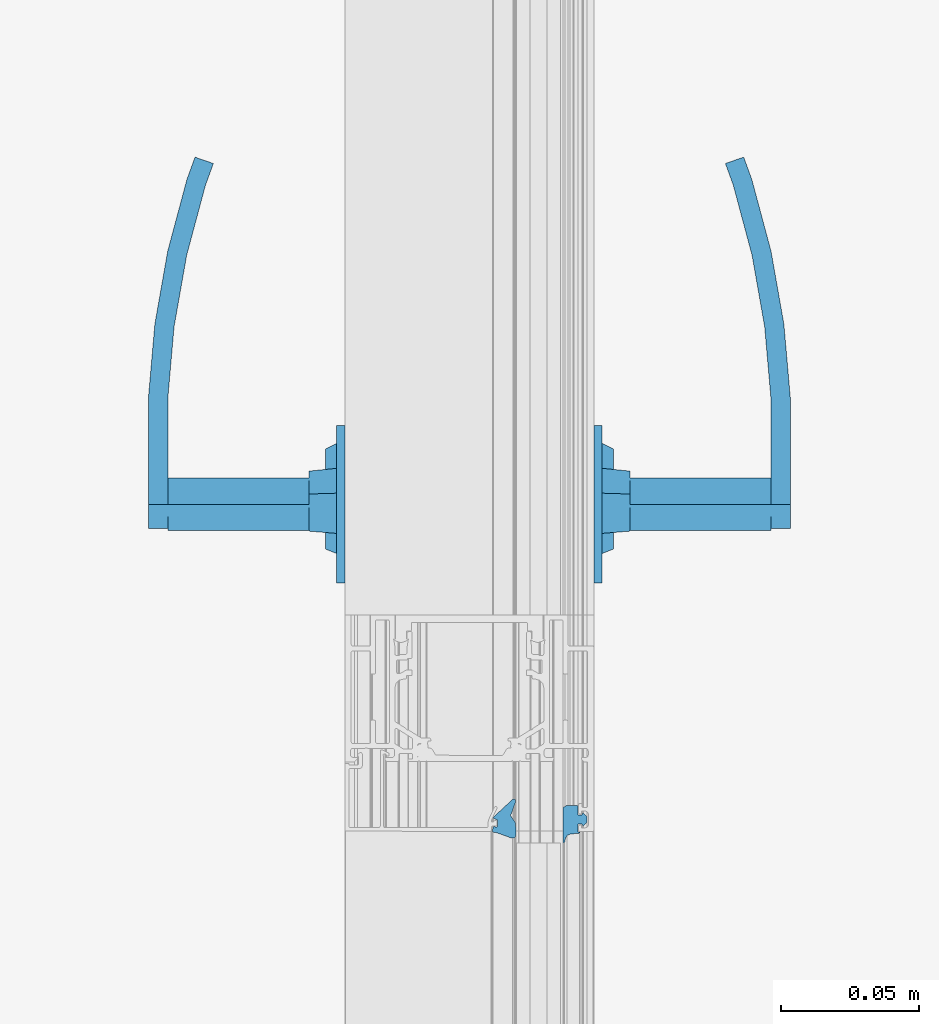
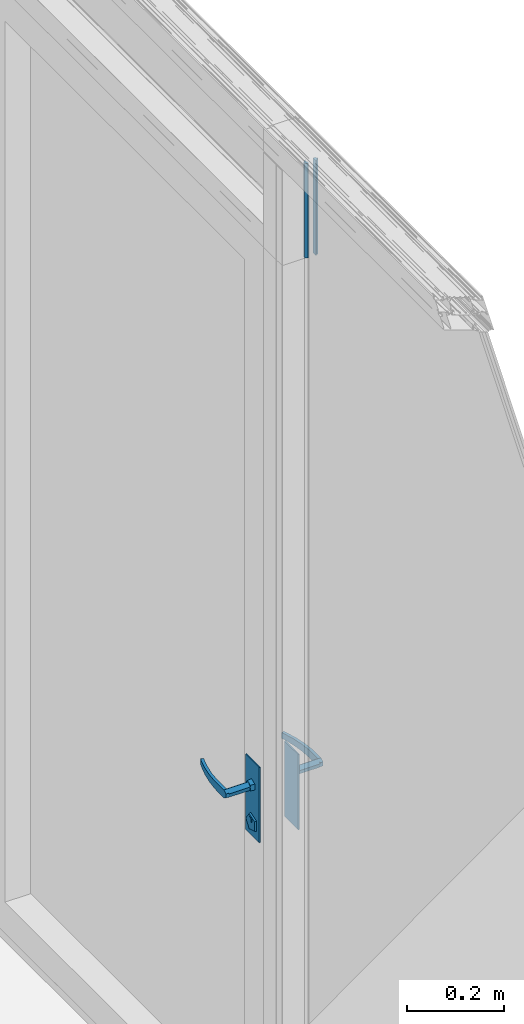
# One storey, part 50 of 65: 2 building element parts, 3 elements without a shape of their own.
"""IFC2X3 building model written with IfcOpenShell, lengths in millimetres."""

from ifc_helpers import new_model, entity, si_unit, converted_unit, derived_unit, money_unit, direction, frame, origin_with_axes, place, context, subcontext, project, spatial, open_shell, faceted_brep, surface_model, material, type_object, element, aggregate, save


model = new_model("IFC2X3")

# Units and contexts
model_context = context("Model", 3, precision=0.01, world=origin_with_axes(), true_north=direction((0.0, 1.0)))
body_context = subcontext(model_context, "Body", "Model", "MODEL_VIEW")
ifc_project = project(units=[si_unit("LENGTHUNIT", "METRE", prefix="MILLI"), si_unit("AREAUNIT", "SQUARE_METRE"), si_unit("VOLUMEUNIT", "CUBIC_METRE"), converted_unit("PLANEANGLEUNIT", "DEGREE", entity("IfcPlaneAngleMeasure", 0.0174532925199), si_unit("PLANEANGLEUNIT", "RADIAN"), dimensions=[0, 0, 0, 0, 0, 0, 0]), si_unit("SOLIDANGLEUNIT", "STERADIAN"), money_unit("EUR"), converted_unit("TIMEUNIT", "Year", entity("IfcTimeMeasure", 31556926.0), si_unit("TIMEUNIT", "SECOND"), dimensions=[0, 0, 1, 0, 0, 0, 0]), si_unit("MASSUNIT", "GRAM", prefix="KILO"), si_unit("THERMODYNAMICTEMPERATUREUNIT", "DEGREE_CELSIUS"), si_unit("LUMINOUSINTENSITYUNIT", "LUMEN"), si_unit("ENERGYUNIT", "JOULE", prefix="MEGA"), derived_unit("THERMALCONDUCTANCEUNIT", [(si_unit("POWERUNIT", "WATT"), 1), (si_unit("LENGTHUNIT", "METRE"), -1), (si_unit("THERMODYNAMICTEMPERATUREUNIT", "KELVIN"), -1)]), derived_unit("SPECIFICHEATCAPACITYUNIT", [(si_unit("ENERGYUNIT", "JOULE"), 1), (si_unit("MASSUNIT", "GRAM", prefix="KILO"), -1), (si_unit("THERMODYNAMICTEMPERATUREUNIT", "KELVIN"), -1)]), derived_unit("MASSDENSITYUNIT", [(si_unit("MASSUNIT", "GRAM", prefix="KILO"), 1), (si_unit("VOLUMEUNIT", "CUBIC_METRE"), -1)])], contexts=[model_context])

# Site, building, storey
site_placement = place(None, origin_with_axes())
site = spatial("IfcSite", under=ifc_project, at=site_placement, Name="Puškini 31, Narva", CompositionType="ELEMENT")
building_placement = place(site_placement, origin_with_axes())
building = spatial("IfcBuilding", under=site, at=building_placement, Name="Narva Riigigümnaasium", CompositionType="ELEMENT")
storey_placement = place(building_placement, frame((0.0, 0.0, -1320.0), z_axis=(0.0, 0.0, 1.0), x_axis=(1.0, 0.0, 0.0)))
storey = spatial("IfcBuildingStorey", under=building, at=storey_placement, Name="1.korrus -1.32", CompositionType="ELEMENT", Elevation=-1320.0)

# Curtain wall, door, building element parts, member
curtain_wall_type = type_object("IfcCurtainWallType", Name="Curtain Wall Type", PredefinedType="NOTDEFINED")
curtain_wall_placement = place(storey_placement, frame((28354.9542923, 194209.397521, 0.0), z_axis=(0.0, 0.0, 1.0), x_axis=(1.0, 0.0, 0.0)))
curtain_wall = element("IfcCurtainWall", 1, at=curtain_wall_placement, inside=storey, type_object=curtain_wall_type, Name="G-SKLF-07")
door_style = type_object("IfcDoorStyle", Name="1132 x 2349 x 20", ConstructionType="NOTDEFINED", OperationType="NOTDEFINED", ParameterTakesPrecedence=False, Sizeable=False)
door_placement = place(curtain_wall_placement, frame((0.0, 0.0, 960.0), z_axis=(0.0, 0.0, 1.0), x_axis=(-4.05197719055e-06, -0.999999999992, 0.0)))
door = element("IfcDoor", 2, at=door_placement, type_object=door_style, Name="G-SKLF-07-U1", ObjectType="DOOR")
ifc_material_1 = material(Name="ET-07_Teras - Roostevaba")
building_element_part_1_placement = place(door_placement, origin_with_axes())
building_element_part_1 = element("IfcBuildingElementPart", 3, at=building_element_part_1_placement, material=ifc_material_1, Name="ET-07_Teras - Roostevaba", context=body_context, shape_type="SurfaceModel", body=[
    faceted_brep([(697.90165242, -45.0, 120.0), (640.90165242, -45.0, 120.0), (640.90165242, -48.0, 120.0), (697.90165242, -48.0, 120.0), (697.90165242, -45.0, -70.0), (640.90165242, -45.0, -70.0), (640.90165242, -48.0, -70.0), (697.90165242, -48.0, -70.0)], [[[0, 1, 2, 3]], [[0, 4, 5, 1]], [[1, 5, 6, 2]], [[3, 2, 6, 7]], [[4, 0, 3, 7]], [[5, 4, 7, 6]]]),
    surface_model("IfcShellBasedSurfaceModel", [(669.40165242, -109.0, 50.0), (678.061906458, -109.0, 55.0), (678.061906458, -116.0, 55.0), (669.40165242, -116.0, 50.0), (644.40165242, -109.0, 50.0), (644.40165242, -109.0, 70.0), (669.40165242, -109.0, 70.0), (678.061906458, -109.0, 65.0), (678.061906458, -116.0, 65.0), (669.40165242, -116.0, 70.0), (644.40165242, -116.0, 70.0), (644.40165242, -116.0, 50.0)], [open_shell([[[0, 1, 2, 3]], [[0, 4, 5, 6, 7, 1]], [[1, 7, 8, 2]], [[3, 2, 8, 9, 10, 11]], [[4, 0, 3, 11]], [[6, 5, 10, 9]], [[7, 6, 9, 8]]])]),
    surface_model("IfcShellBasedSurfaceModel", [(644.40165242, -109.0, 70.0), (631.303369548, -109.0, 69.6073009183), (630.997742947, -116.0, 69.6073009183), (644.40165242, -109.0, 50.0), (631.303369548, -109.0, 50.3926990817), (604.291935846, -113.663544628, 68.8219027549), (644.40165242, -116.0, 70.0), (644.40165242, -116.0, 50.0), (605.206489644, -106.716818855, 51.1780972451), (605.206489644, -106.716818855, 68.8219027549), (604.291935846, -113.663544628, 51.1780972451), (630.997742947, -116.0, 50.3926990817), (579.407908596, -102.167832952, 51.9634954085), (579.407908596, -102.167832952, 68.0365045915), (577.891387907, -109.008415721, 68.0365045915), (577.891387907, -109.008415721, 51.9634954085), (554.103969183, -95.3876628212, 52.7488935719), (554.103969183, -95.3876628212, 67.2511064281), (551.997023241, -102.07004162, 67.2511064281), (551.997023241, -102.07004162, 52.7488935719), (546.231094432, -92.5221707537, 53.0), (546.231094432, -92.5221707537, 67.0), (543.940448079, -99.1376880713, 67.0), (543.940448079, -99.1376880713, 53.0)], [open_shell([[[0, 1, 2]], [[0, 3, 4, 1]], [[1, 5, 2]], [[0, 2, 6]], [[4, 3, 7]], [[1, 4, 8, 9]], [[1, 9, 5]], [[2, 5, 10, 11]], [[6, 2, 11, 7]], [[4, 7, 11]], [[8, 4, 11]], [[9, 8, 12, 13]], [[9, 14, 5]], [[5, 14, 15, 10]], [[8, 11, 10]], [[12, 8, 10]], [[13, 12, 16, 17]], [[9, 13, 14]], [[14, 18, 19, 15]], [[12, 10, 15]], [[16, 12, 15]], [[17, 16, 20, 21]], [[13, 17, 18]], [[13, 18, 14]], [[18, 22, 23, 19]], [[16, 15, 19]], [[20, 16, 19]], [[21, 20, 23, 22]], [[17, 21, 22]], [[17, 22, 18]], [[20, 19, 23]]])]),
    faceted_brep([(665.693448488, -58.0, 48.5873218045), (657.40165242, -58.0, 60.0), (656.40165242, -48.0, 60.0), (665.384431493, -48.0, 47.6362652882), (679.109856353, -58.0, 52.9465769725), (679.109856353, -58.0, 67.0534230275), (665.693448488, -58.0, 71.4126781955), (665.384431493, -48.0, 72.3637347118), (679.918873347, -48.0, 67.6412082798), (679.918873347, -48.0, 52.3587917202)], [[[0, 1, 2, 3]], [[1, 0, 4, 5, 6]], [[1, 6, 7, 2]], [[2, 7, 8, 9, 3]], [[4, 0, 3, 9]], [[5, 4, 9, 8]], [[6, 5, 8, 7]]]),
    faceted_brep([(663.221312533, -52.0, -54.0211303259), (649.40165242, -52.0, -35.0), (647.40165242, -48.0, -35.0), (662.603278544, -48.0, -55.9232433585), (685.581992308, -52.0, -46.7557050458), (685.581992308, -52.0, -23.2442949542), (663.221312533, -52.0, -15.9788696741), (662.603278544, -48.0, -14.0767566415), (687.200026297, -48.0, -22.0687244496), (687.200026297, -48.0, -47.9312755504)], [[[0, 1, 2, 3]], [[1, 0, 4, 5, 6]], [[1, 6, 7, 2]], [[2, 7, 8, 9, 3]], [[4, 0, 3, 9]], [[5, 4, 9, 8]], [[6, 5, 8, 7]]]),
    faceted_brep([(667.23853346, -54.0, -32.6573956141), (662.40165242, -54.0, -26.0), (661.40165242, -52.0, -26.0), (666.929516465, -52.0, -33.6084521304), (675.064771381, -54.0, -30.114496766), (675.064771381, -54.0, -21.885503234), (667.23853346, -54.0, -19.3426043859), (666.929516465, -52.0, -18.3915478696), (675.873788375, -52.0, -21.2977179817), (675.873788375, -52.0, -30.7022820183)], [[[0, 1, 2, 3]], [[1, 0, 4, 5, 6]], [[1, 6, 7, 2]], [[2, 7, 8, 9, 3]], [[4, 0, 3, 9]], [[5, 4, 9, 8]], [[6, 5, 8, 7]]]),
    faceted_brep([(669.40165242, -58.0, 70.0), (659.891087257, -58.0, 63.0901699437), (659.891087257, -109.0, 63.0901699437), (669.40165242, -109.0, 70.0), (678.912217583, -58.0, 63.0901699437), (675.279504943, -58.0, 51.9098300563), (663.523799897, -58.0, 51.9098300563), (663.523799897, -109.0, 51.9098300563), (675.279504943, -109.0, 51.9098300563), (678.912217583, -109.0, 63.0901699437)], [[[0, 1, 2, 3]], [[0, 4, 5, 6, 1]], [[1, 6, 7, 2]], [[3, 2, 7, 8, 9]], [[4, 0, 3, 9]], [[5, 4, 9, 8]], [[6, 5, 8, 7]]]),
    faceted_brep([(697.90165242, 45.0, 120.0), (697.90165242, 48.0, 120.0), (640.90165242, 48.0, 120.0), (640.90165242, 45.0, 120.0), (697.90165242, 45.0, -70.0), (697.90165242, 48.0, -70.0), (640.90165242, 48.0, -70.0), (640.90165242, 45.0, -70.0)], [[[0, 1, 2, 3]], [[4, 5, 1, 0]], [[1, 5, 6, 2]], [[3, 2, 6, 7]], [[0, 3, 7, 4]], [[7, 6, 5, 4]]]),
    surface_model("IfcShellBasedSurfaceModel", [(669.40165242, 109.0, 50.0), (669.40165242, 116.0, 50.0), (678.061906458, 116.0, 55.0), (678.061906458, 109.0, 55.0), (644.40165242, 109.0, 50.0), (644.40165242, 116.0, 50.0), (644.40165242, 116.0, 70.0), (669.40165242, 116.0, 70.0), (678.061906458, 116.0, 65.0), (678.061906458, 109.0, 65.0), (669.40165242, 109.0, 70.0), (644.40165242, 109.0, 70.0)], [open_shell([[[0, 1, 2, 3]], [[4, 5, 1, 0]], [[1, 5, 6, 7, 8, 2]], [[3, 2, 8, 9]], [[0, 3, 9, 10, 11, 4]], [[10, 7, 6, 11]], [[9, 8, 7, 10]]])]),
    surface_model("IfcShellBasedSurfaceModel", [(644.40165242, 109.0, 70.0), (630.997742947, 116.0, 69.6073009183), (631.303369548, 109.0, 69.6073009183), (644.40165242, 116.0, 70.0), (604.291935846, 113.663544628, 68.8219027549), (631.303369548, 109.0, 50.3926990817), (644.40165242, 109.0, 50.0), (644.40165242, 116.0, 50.0), (630.997742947, 116.0, 50.3926990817), (604.291935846, 113.663544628, 51.1780972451), (605.206489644, 106.716818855, 68.8219027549), (605.206489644, 106.716818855, 51.1780972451), (577.891387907, 109.008415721, 51.9634954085), (577.891387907, 109.008415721, 68.0365045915), (579.407908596, 102.167832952, 68.0365045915), (579.407908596, 102.167832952, 51.9634954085), (551.997023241, 102.07004162, 52.7488935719), (551.997023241, 102.07004162, 67.2511064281), (554.103969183, 95.3876628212, 67.2511064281), (554.103969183, 95.3876628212, 52.7488935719), (543.940448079, 99.1376880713, 53.0), (543.940448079, 99.1376880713, 67.0), (546.231094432, 92.5221707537, 67.0), (546.231094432, 92.5221707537, 53.0)], [open_shell([[[0, 1, 2]], [[0, 3, 1]], [[2, 1, 4]], [[0, 2, 5, 6]], [[3, 7, 8, 1]], [[1, 8, 9, 4]], [[2, 4, 10]], [[2, 10, 11, 5]], [[5, 7, 6]], [[5, 8, 7]], [[11, 9, 8]], [[4, 9, 12, 13]], [[10, 4, 13]], [[10, 14, 15, 11]], [[11, 8, 5]], [[15, 9, 11]], [[15, 12, 9]], [[13, 12, 16, 17]], [[10, 13, 14]], [[14, 18, 19, 15]], [[19, 12, 15]], [[19, 16, 12]], [[17, 16, 20, 21]], [[14, 13, 17]], [[14, 17, 18]], [[18, 22, 23, 19]], [[23, 16, 19]], [[23, 20, 16]], [[22, 21, 20, 23]], [[18, 17, 21]], [[18, 21, 22]]])]),
    faceted_brep([(665.693448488, 58.0, 48.5873218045), (665.384431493, 48.0, 47.6362652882), (656.40165242, 48.0, 60.0), (657.40165242, 58.0, 60.0), (679.109856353, 58.0, 52.9465769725), (679.918873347, 48.0, 52.3587917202), (679.918873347, 48.0, 67.6412082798), (665.384431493, 48.0, 72.3637347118), (665.693448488, 58.0, 71.4126781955), (679.109856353, 58.0, 67.0534230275)], [[[0, 1, 2, 3]], [[4, 5, 1, 0]], [[2, 1, 5, 6, 7]], [[3, 2, 7, 8]], [[3, 8, 9, 4, 0]], [[9, 6, 5, 4]], [[8, 7, 6, 9]]]),
    faceted_brep([(663.221312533, 52.0, -54.0211303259), (662.603278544, 48.0, -55.9232433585), (647.40165242, 48.0, -35.0), (649.40165242, 52.0, -35.0), (685.581992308, 52.0, -46.7557050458), (687.200026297, 48.0, -47.9312755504), (687.200026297, 48.0, -22.0687244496), (662.603278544, 48.0, -14.0767566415), (663.221312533, 52.0, -15.9788696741), (685.581992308, 52.0, -23.2442949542)], [[[0, 1, 2, 3]], [[4, 5, 1, 0]], [[2, 1, 5, 6, 7]], [[3, 2, 7, 8]], [[3, 8, 9, 4, 0]], [[9, 6, 5, 4]], [[8, 7, 6, 9]]]),
    faceted_brep([(667.23853346, 54.0, -32.6573956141), (666.929516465, 52.0, -33.6084521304), (661.40165242, 52.0, -26.0), (662.40165242, 54.0, -26.0), (675.064771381, 54.0, -30.114496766), (675.873788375, 52.0, -30.7022820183), (675.873788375, 52.0, -21.2977179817), (666.929516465, 52.0, -18.3915478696), (667.23853346, 54.0, -19.3426043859), (675.064771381, 54.0, -21.885503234)], [[[0, 1, 2, 3]], [[4, 5, 1, 0]], [[2, 1, 5, 6, 7]], [[3, 2, 7, 8]], [[3, 8, 9, 4, 0]], [[9, 6, 5, 4]], [[8, 7, 6, 9]]]),
    faceted_brep([(669.40165242, 58.0, 70.0), (669.40165242, 109.0, 70.0), (659.891087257, 109.0, 63.0901699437), (659.891087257, 58.0, 63.0901699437), (678.912217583, 58.0, 63.0901699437), (678.912217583, 109.0, 63.0901699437), (675.279504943, 109.0, 51.9098300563), (663.523799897, 109.0, 51.9098300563), (663.523799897, 58.0, 51.9098300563), (675.279504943, 58.0, 51.9098300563)], [[[0, 1, 2, 3]], [[4, 5, 1, 0]], [[1, 5, 6, 7, 2]], [[3, 2, 7, 8]], [[0, 3, 8, 9, 4]], [[9, 6, 5, 4]], [[8, 7, 6, 9]]]),
])
aggregate(door, [building_element_part_1])
member_type = type_object("IfcMemberType", Name="82 x 45", PredefinedType="MULLION")
member_placement = place(curtain_wall_placement, frame((-0.00287447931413, -709.401652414, 2400.0), z_axis=(0.0, 0.0, 1.0), x_axis=(-4.05197718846e-06, -0.999999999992, 0.0)))
member = element("IfcMember", 4, at=member_placement, type_object=member_type, Name="G-SKLF-07-raam", ObjectType="MULLION")
aggregate(curtain_wall, [door, member])
ifc_material_2 = material(Name="Membraan - Veekindel")
building_element_part_2_placement = place(member_placement, origin_with_axes())
building_element_part_2 = element("IfcBuildingElementPart", 5, at=building_element_part_2_placement, material=ifc_material_2, Name="Membraan - Veekindel", context=body_context, shape_type="Brep", body=[
    faceted_brep([(74.9898926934, 16.6230552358, 0.0), (72.7204882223, 15.0100099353, 0.0), (72.7204882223, 15.0100099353, 238.835293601), (74.9898926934, 16.6230552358, 238.835293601), (77.1927259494, 16.806401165, 0.0), (79.5038972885, 16.8013439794, 0.0), (80.1029794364, 16.6395947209, 0.0), (80.5411647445, 16.2002134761, 0.0), (80.7012805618, 15.6006926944, 0.0), (80.5405112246, 15.001346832, 0.0), (78.7418652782, 10.0036443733, 0.0), (78.4882789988, 8.54540440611, 0.0), (78.4207620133, 8.4047573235, 0.0), (78.2917480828, 8.3170330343, 0.0), (78.1361285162, 8.30595622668, 0.0), (76.7361285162, 8.57808865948, 0.0), (76.601588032, 8.64188392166, 0.0), (76.5142922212, 8.76250903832, 0.0), (76.4957458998, 8.91024871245, 0.0), (76.6099827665, 9.81277248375, 0.0), (76.5838261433, 9.9781344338, 0.0), (76.4731258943, 10.1037298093, 0.0), (76.3123574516, 10.1504443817, 0.0), (74.2580290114, 10.1504443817, 0.0), (74.0859560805, 10.096189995, 0.0), (73.9761212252, 9.95305042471, 0.0), (73.5556584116, 8.79783833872, 0.0), (73.4722984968, 8.67558063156, 0.0), (73.3406152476, 8.60808734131, 0.0), (73.192689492, 8.61180126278, 0.0), (73.0645590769, 8.68581760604, 0.0), (66.8142070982, 15.4145273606, 0.0), (66.5501763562, 15.7474287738, 0.0), (66.5093924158, 16.1703616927, 0.0), (66.7049453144, 16.5475813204, 0.0), (67.0740702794, 16.7580150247, 0.0), (67.4982927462, 16.7341218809, 0.0), (71.7536994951, 15.2121692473, 0.0), (72.0437237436, 15.0307647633, 0.0), (72.2558878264, 14.9074571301, 0.0), (72.5011668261, 14.8999349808, 0.0), (72.5011668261, 14.8999349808, 238.835293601), (72.2558878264, 14.9074571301, 238.835293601), (72.0437237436, 15.0307647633, 238.835293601), (71.7536994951, 15.2121692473, 238.835293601), (67.4982927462, 16.7341218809, 238.835293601), (67.0740702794, 16.7580150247, 238.835293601), (66.7049453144, 16.5475813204, 238.835293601), (66.5093924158, 16.1703616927, 238.835293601), (66.5501763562, 15.7474287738, 238.835293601), (66.8142070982, 15.4145273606, 238.835293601), (73.0645590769, 8.68581760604, 238.835293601), (73.192689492, 8.61180126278, 238.835293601), (73.3406152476, 8.60808734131, 238.835293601), (73.4722984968, 8.67558063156, 238.835293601), (73.5556584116, 8.79783833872, 238.835293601), (73.9761212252, 9.95305042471, 238.835293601), (74.0859560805, 10.096189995, 238.835293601), (74.2580290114, 10.1504443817, 238.835293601), (76.3123574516, 10.1504443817, 238.835293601), (76.4731258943, 10.1037298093, 238.835293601), (76.5838261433, 9.9781344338, 238.835293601), (76.6099827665, 9.81277248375, 238.835293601), (76.4957458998, 8.91024871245, 238.835293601), (76.5142922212, 8.76250903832, 238.835293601), (76.601588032, 8.64188392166, 238.835293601), (76.7361285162, 8.57808865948, 238.835293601), (78.1361285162, 8.30595622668, 238.835293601), (78.2917480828, 8.3170330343, 238.835293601), (78.4207620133, 8.4047573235, 238.835293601), (78.4882789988, 8.54540440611, 238.835293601), (78.7418652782, 10.0036443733, 238.835293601), (80.5405112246, 15.001346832, 238.835293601), (80.7012805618, 15.6006926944, 238.835293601), (80.5411647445, 16.2002134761, 238.835293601), (80.1029794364, 16.6395947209, 238.835293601), (79.5038972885, 16.8013439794, 238.835293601), (77.1927259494, 16.806401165, 238.835293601)], [[[0, 1, 2, 3]], [[0, 4, 5, 6, 7, 8, 9, 10, 11, 12, 13, 14, 15, 16, 17, 18, 19, 20, 21, 22, 23, 24, 25, 26, 27, 28, 29, 30, 31, 32, 33, 34, 35, 36, 37, 38, 39, 40, 1]], [[1, 40, 41, 2]], [[3, 2, 41, 42, 43, 44, 45, 46, 47, 48, 49, 50, 51, 52, 53, 54, 55, 56, 57, 58, 59, 60, 61, 62, 63, 64, 65, 66, 67, 68, 69, 70, 71, 72, 73, 74, 75, 76, 77]], [[4, 0, 3, 77]], [[5, 4, 77, 76]], [[6, 5, 76, 75]], [[7, 6, 75, 74]], [[8, 7, 74, 73]], [[9, 8, 73, 72]], [[10, 9, 72, 71]], [[11, 10, 71, 70]], [[12, 11, 70, 69]], [[13, 12, 69, 68]], [[14, 13, 68, 67]], [[15, 14, 67, 66]], [[16, 15, 66, 65]], [[17, 16, 65, 64]], [[18, 17, 64, 63]], [[19, 18, 63, 62]], [[20, 19, 62, 61]], [[21, 20, 61, 60]], [[22, 21, 60, 59]], [[23, 22, 59, 58]], [[24, 23, 58, 57]], [[25, 24, 57, 56]], [[26, 25, 56, 55]], [[27, 26, 55, 54]], [[28, 27, 54, 53]], [[29, 28, 53, 52]], [[30, 29, 52, 51]], [[31, 30, 51, 50]], [[32, 31, 50, 49]], [[33, 32, 49, 48]], [[34, 33, 48, 47]], [[35, 34, 47, 46]], [[36, 35, 46, 45]], [[37, 36, 45, 44]], [[38, 37, 44, 43]], [[39, 38, 43, 42]], [[40, 39, 42, 41]]]),
    faceted_brep([(72.8904310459, 42.4618935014, 0.0), (71.6876987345, 41.3119145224, 0.0), (71.6876987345, 41.3119145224, 238.835293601), (72.8904310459, 42.4618935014, 238.835293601), (73.0818844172, 42.5, 0.0), (74.717932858, 42.5, 0.0), (74.9093558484, 42.461906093, 0.0), (75.0716106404, 42.353428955, 0.0), (76.1122970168, 41.3120098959, 0.0), (76.1942964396, 41.1583915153, 0.0), (76.1771585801, 40.9851032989, 0.0), (76.0666568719, 40.8505228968, 0.0), (75.9000173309, 40.799988, 0.0), (75.800021, 40.799988, 0.0), (75.500021, 40.499988, 0.0), (75.500021, 39.200012, 0.0), (76.5000210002, 39.200012, 0.0), (78.5000022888, 39.2000007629, 0.0), (78.5000022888, 40.0000359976, 0.0), (78.7000161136, 39.9464425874, 0.0), (78.8464370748, 39.8000230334, 0.0), (78.9000324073, 39.6000097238, 0.0), (79.1693613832, 36.5266395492, 0.0), (79.6755028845, 35.3629012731, 0.0), (80.7800222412, 34.7379988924, 0.0), (82.041102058, 34.4928127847, 0.0), (82.2412066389, 34.3909158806, 0.0), (82.3536959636, 34.1965683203, 0.0), (82.3423779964, 33.9722990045, 0.0), (82.2108941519, 33.7902637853, 0.0), (69.647137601, 33.7902637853, 0.0), (68.8997554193, 34.9006000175, 0.0), (68.9000321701, 38.9000291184, 0.0), (68.9402207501, 39.0500149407, 0.0), (69.0500179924, 39.159812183, 0.0), (69.2000038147, 39.2000007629, 0.0), (71.30004, 39.2000007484, 0.0), (72.30004, 39.200012, 0.0), (72.30004, 40.499988, 0.0), (72.2598476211, 40.649988, 0.0), (72.15004, 40.7597956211, 0.0), (72.00004, 40.799988, 0.0), (71.900046, 40.799988, 0.0), (71.7334350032, 40.8505059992, 0.0), (71.6229356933, 40.9850466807, 0.0), (71.6057623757, 41.1582990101, 0.0), (71.6057623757, 41.1582990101, 238.835293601), (71.6229356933, 40.9850466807, 238.835293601), (71.7334350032, 40.8505059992, 238.835293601), (71.900046, 40.799988, 238.835293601), (72.00004, 40.799988, 238.835293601), (72.15004, 40.7597956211, 238.835293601), (72.2598476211, 40.649988, 238.835293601), (72.30004, 40.499988, 238.835293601), (72.30004, 39.200012, 238.835293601), (71.30004, 39.2000007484, 238.835293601), (69.2000038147, 39.2000007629, 238.835293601), (69.0500179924, 39.159812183, 238.835293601), (68.9402207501, 39.0500149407, 238.835293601), (68.9000321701, 38.9000291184, 238.835293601), (68.8997554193, 34.9006000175, 238.835293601), (69.647137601, 33.7902637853, 238.835293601), (82.2108941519, 33.7902637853, 238.835293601), (82.3423779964, 33.9722990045, 238.835293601), (82.3536959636, 34.1965683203, 238.835293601), (82.2412066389, 34.3909158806, 238.835293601), (82.041102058, 34.4928127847, 238.835293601), (80.7800222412, 34.7379988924, 238.835293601), (79.6755028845, 35.3629012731, 238.835293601), (79.1693613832, 36.5266395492, 238.835293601), (78.9000324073, 39.6000097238, 238.835293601), (78.8464370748, 39.8000230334, 238.835293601), (78.7000161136, 39.9464425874, 238.835293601), (78.5000022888, 40.0000359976, 238.835293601), (78.5000022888, 39.2000007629, 238.835293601), (76.5000210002, 39.200012, 238.835293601), (75.500021, 39.200012, 238.835293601), (75.500021, 40.499988, 238.835293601), (75.800021, 40.799988, 238.835293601), (75.9000173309, 40.799988, 238.835293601), (76.0666568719, 40.8505228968, 238.835293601), (76.1771585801, 40.9851032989, 238.835293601), (76.1942964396, 41.1583915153, 238.835293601), (76.1122970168, 41.3120098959, 238.835293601), (75.0716106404, 42.353428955, 238.835293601), (74.9093558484, 42.461906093, 238.835293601), (74.717932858, 42.5, 238.835293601), (73.0818844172, 42.5, 238.835293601)], [[[0, 1, 2, 3]], [[0, 4, 5, 6, 7, 8, 9, 10, 11, 12, 13, 14, 15, 16, 17, 18, 19, 20, 21, 22, 23, 24, 25, 26, 27, 28, 29, 30, 31, 32, 33, 34, 35, 36, 37, 38, 39, 40, 41, 42, 43, 44, 45, 1]], [[1, 45, 46, 2]], [[3, 2, 46, 47, 48, 49, 50, 51, 52, 53, 54, 55, 56, 57, 58, 59, 60, 61, 62, 63, 64, 65, 66, 67, 68, 69, 70, 71, 72, 73, 74, 75, 76, 77, 78, 79, 80, 81, 82, 83, 84, 85, 86, 87]], [[4, 0, 3, 87]], [[5, 4, 87, 86]], [[6, 5, 86, 85]], [[7, 6, 85, 84]], [[8, 7, 84, 83]], [[9, 8, 83, 82]], [[10, 9, 82, 81]], [[11, 10, 81, 80]], [[12, 11, 80, 79]], [[13, 12, 79, 78]], [[14, 13, 78, 77]], [[15, 14, 77, 76]], [[16, 15, 76, 75]], [[17, 16, 75, 74]], [[18, 17, 74, 73]], [[19, 18, 73, 72]], [[20, 19, 72, 71]], [[21, 20, 71, 70]], [[22, 21, 70, 69]], [[23, 22, 69, 68]], [[24, 23, 68, 67]], [[25, 24, 67, 66]], [[26, 25, 66, 65]], [[27, 26, 65, 64]], [[28, 27, 64, 63]], [[29, 28, 63, 62]], [[30, 29, 62, 61]], [[31, 30, 61, 60]], [[32, 31, 60, 59]], [[33, 32, 59, 58]], [[34, 33, 58, 57]], [[35, 34, 57, 56]], [[36, 35, 56, 55]], [[37, 36, 55, 54]], [[38, 37, 54, 53]], [[39, 38, 53, 52]], [[40, 39, 52, 51]], [[41, 40, 51, 50]], [[42, 41, 50, 49]], [[43, 42, 49, 48]], [[44, 43, 48, 47]], [[45, 44, 47, 46]]]),
])
aggregate(member, [building_element_part_2])

save(model, "model.ifc")
